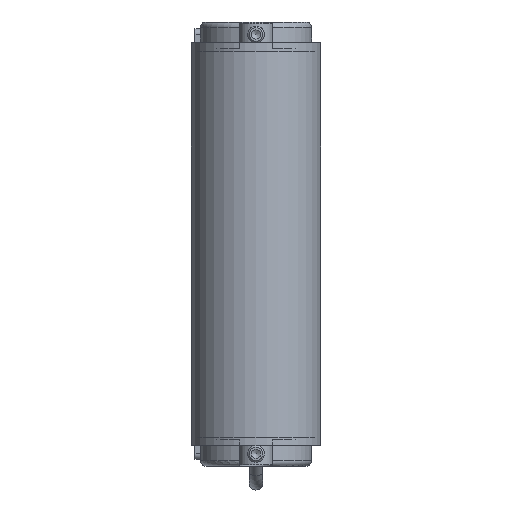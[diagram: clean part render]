
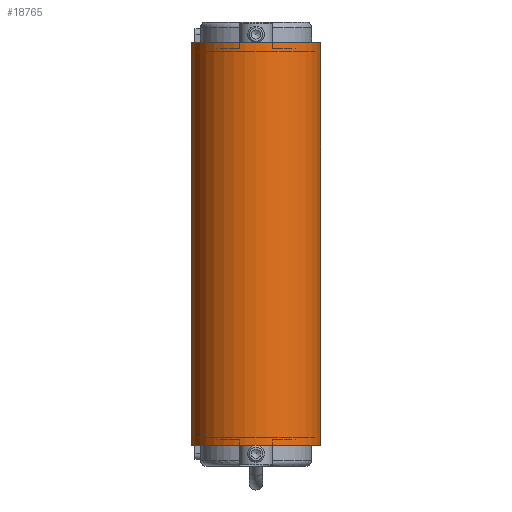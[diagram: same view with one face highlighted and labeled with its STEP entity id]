
A CAD part, front view. The second image highlights one B-rep face of the part: STEP entity #18765.
In plain terms, the highlighted cylindrical face has radius 23.3 mm (diameter 46.6 mm), a partial arc.
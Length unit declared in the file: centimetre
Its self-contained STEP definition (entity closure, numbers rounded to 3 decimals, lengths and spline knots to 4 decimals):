
#545=CYLINDRICAL_SURFACE('',#20068,2.33);
#1155=CIRCLE('',#20063,2.33);
#1158=CIRCLE('',#20069,2.33);
#1949=FACE_OUTER_BOUND('',#2970,.T.);
#2970=EDGE_LOOP('',(#12694,#12695,#12696,#12697));
#4255=LINE('',#27642,#5763);
#4256=LINE('',#27646,#5764);
#5763=VECTOR('',#22664,1.);
#5764=VECTOR('',#22669,1.);
#7440=VERTEX_POINT('',#27625);
#7441=VERTEX_POINT('',#27626);
#7446=VERTEX_POINT('',#27640);
#7447=VERTEX_POINT('',#27644);
#9491=EDGE_CURVE('',#7440,#7441,#1155,.T.);
#9499=EDGE_CURVE('',#7446,#7441,#4255,.T.);
#9500=EDGE_CURVE('',#7446,#7447,#1158,.T.);
#9501=EDGE_CURVE('',#7440,#7447,#4256,.T.);
#12694=ORIENTED_EDGE('',*,*,#9500,.T.);
#12695=ORIENTED_EDGE('',*,*,#9501,.F.);
#12696=ORIENTED_EDGE('',*,*,#9491,.T.);
#12697=ORIENTED_EDGE('',*,*,#9499,.F.);
#18765=ADVANCED_FACE('',(#1949),#545,.T.);
#20063=AXIS2_PLACEMENT_3D('',#27627,#22649,#22650);
#20068=AXIS2_PLACEMENT_3D('',#27643,#22665,#22666);
#20069=AXIS2_PLACEMENT_3D('',#27645,#22667,#22668);
#22649=DIRECTION('center_axis',(0.,0.,
-1.));
#22650=DIRECTION('ref_axis',(-1.,0.,0.));
#22664=DIRECTION('',(0.,0.,1.));
#22665=DIRECTION('center_axis',(0.,0.,
-1.));
#22666=DIRECTION('ref_axis',(-1.,0.,0.));
#22667=DIRECTION('center_axis',(0.,0.,
1.));
#22668=DIRECTION('ref_axis',(-1.,0.,0.));
#22669=DIRECTION('',(0.,0.,-1.));
#27625=CARTESIAN_POINT('',(2.33,-87.,7.25));
#27626=CARTESIAN_POINT('',(-2.33,-87.,7.25));
#27627=CARTESIAN_POINT('Origin',(0.,-87.,7.25));
#27640=CARTESIAN_POINT('',(-2.33,-87.,-7.25));
#27642=CARTESIAN_POINT('',(-2.33,-87.,0.));
#27643=CARTESIAN_POINT('Origin',(0.,-87.,0.));
#27644=CARTESIAN_POINT('',(2.33,-87.,-7.25));
#27645=CARTESIAN_POINT('Origin',(0.,-87.,-7.25));
#27646=CARTESIAN_POINT('',(2.33,-87.,0.));
